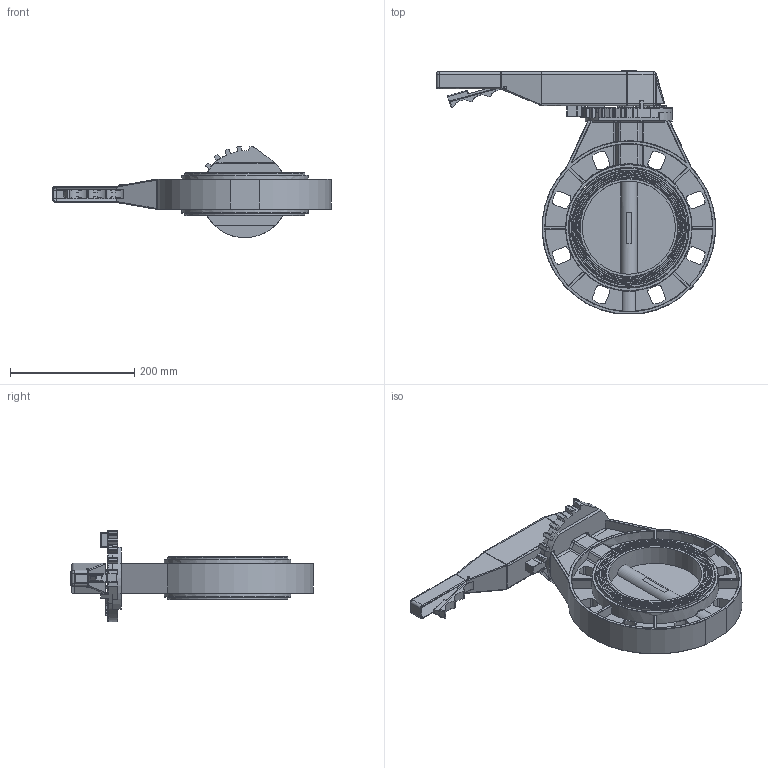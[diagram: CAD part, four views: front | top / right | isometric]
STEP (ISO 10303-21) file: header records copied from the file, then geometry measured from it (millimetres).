
FILE_DESCRIPTION(('STEP AP242'), '1');
FILE_NAME('WBV4242E-2W-Fb-H 青蜮铕 滂耜钼 DN.ru 捏150 畜10', '', ('UNSPECIFIED'), ('UNSPECIFIED'), 'C3D Converter', 'C3D Toolkit', '');
FILE_SCHEMA(('AP242_MANAGED_MODEL_BASED_3D_ENGINEERING_MIM_LF { 1 0 10303 442 1 1 4 }'));
Length unit declared in the file: millimetre
Products named in the file (1): WBV4242E-2W-Fb-H
Bounding box: 449.64 x 391.14 x 147.09 mm (x, y, z)
Volume: 2352100.2 mm3; surface area: 555544.1 mm2
Topology: 1 solids, 1 shells, 980 faces, 2526 edges, 1579 vertices
Faces by surface type: plane 376, cylinder 274, bspline 246, torus 78, sphere 6
Full cylindrical faces by diameter (mm): 15 x1, 27 x2, 150 x2, 193.2 x1, 194 x1, 204 x2
Entity records: 72372 total; most frequent: CARTESIAN_POINT 42331, ORIENTED_EDGE 4976, DIRECTION 3956, EDGE_CURVE 2488, VERTEX_POINT 1579, AXIS2_PLACEMENT_3D 1369, LINE 1218, VECTOR 1218
